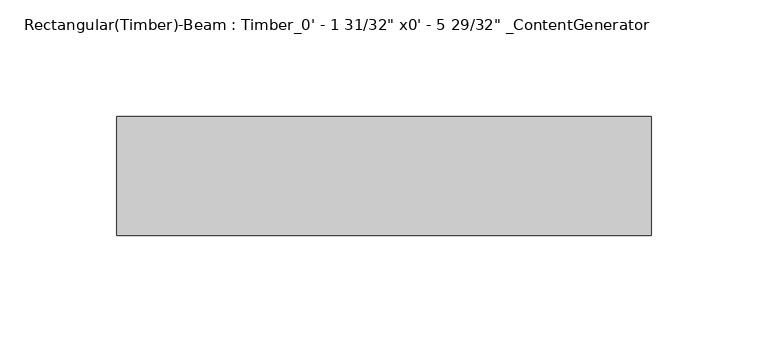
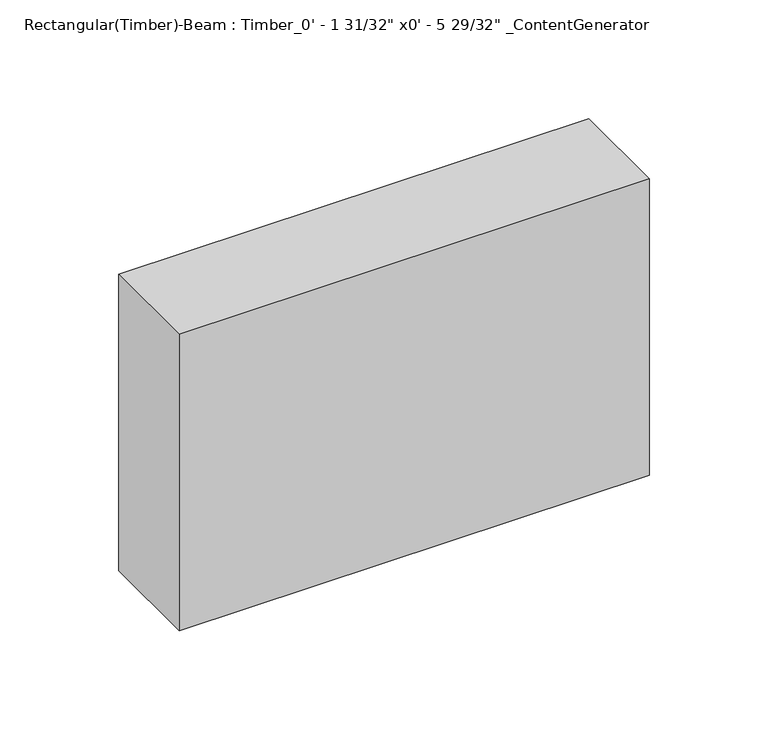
"""IFC4 building model written with IfcOpenShell, lengths in millimetres: beam geometry."""

from ifc_helpers import new_model, si_unit, frame, origin, place, context, project, spatial, polyline, outline, extrude, source, transform, mapped, element, save


def beam_c84af2dd(model_context):
    return source(origin(), model_context, "Body", "SweptSolid", [
        extrude(outline(polyline([(101.605, 25.4), (101.605, -25.4), (-127.0049994, -25.4), (-127.0049994, 25.4), (101.605, 25.4)])), frame((0.0, 0.0, -76.2), z_axis=(0.0, 0.0, 1.0), x_axis=(1.0, 0.0, 0.0)), (0.0, 0.0, 1.0), 152.4),
    ])


if __name__ == "__main__":
    model = new_model("IFC4")
    model_context = context("Model", 3, world=origin())
    ifc_project = project(units=[si_unit("LENGTHUNIT", "METRE", prefix="MILLI")], contexts=[model_context])
    site = spatial("IfcSite", under=ifc_project)
    building = spatial("IfcBuilding", under=site)
    placement = place(None, origin())
    beam_shape = beam_c84af2dd(model_context)
    element("IfcBeam", 1, ObjectType="Rectangular(Timber)-Beam : Timber_0' - 1 31/32\" x0' - 5 29/32\" _ContentGenerator", at=placement, inside=building, context=model_context, shape_type="MappedRepresentation", body=[
        mapped(beam_shape, transform((0.0, 0.0, 0.0), x_axis=(1.0, 0.0, 0.0), y_axis=(0.0, 1.0, 0.0), z_axis=(0.0, 0.0, 1.0))),
    ])
    save(model, "model.ifc")
